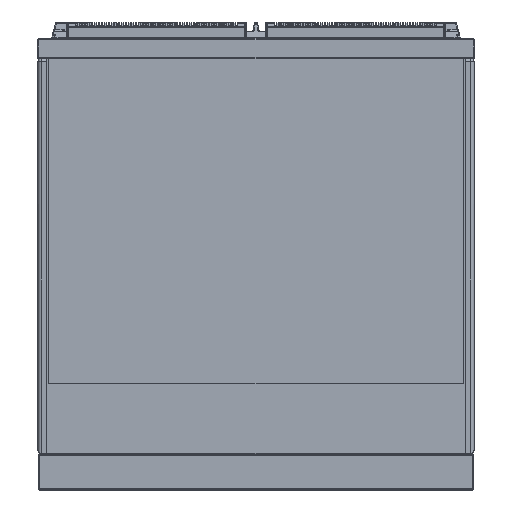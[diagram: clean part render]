
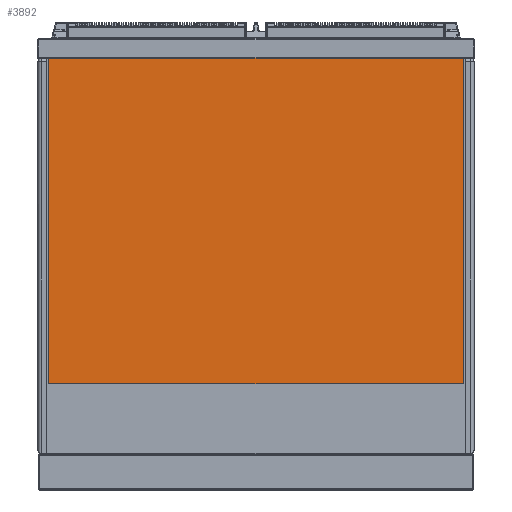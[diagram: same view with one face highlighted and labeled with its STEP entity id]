
A CAD part, top view. The second image highlights one B-rep face of the part: STEP entity #3892.
In plain terms, the highlighted planar face has unit normal (0, 0, 1).
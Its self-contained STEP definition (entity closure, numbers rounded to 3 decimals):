
#1207=DIRECTION('',(1.,0.,0.));
#1208=VECTOR('',#1207,856.);
#1209=CARTESIAN_POINT('',(-428.,890.,299.));
#1210=LINE('',#1209,#1208);
#1211=DIRECTION('',(0.,-1.,0.));
#1212=VECTOR('',#1211,672.);
#1213=CARTESIAN_POINT('',(428.,890.,299.));
#1214=LINE('',#1213,#1212);
#1215=DIRECTION('',(-1.,0.,0.));
#1216=VECTOR('',#1215,856.);
#1217=CARTESIAN_POINT('',(428.,218.,299.));
#1218=LINE('',#1217,#1216);
#1219=DIRECTION('',(0.,1.,0.));
#1220=VECTOR('',#1219,672.);
#1221=CARTESIAN_POINT('',(-428.,218.,299.));
#1222=LINE('',#1221,#1220);
#1512=CARTESIAN_POINT('',(-428.,890.,299.));
#1513=CARTESIAN_POINT('',(428.,890.,299.));
#1514=VERTEX_POINT('',#1512);
#1515=VERTEX_POINT('',#1513);
#1516=CARTESIAN_POINT('',(428.,218.,299.));
#1517=VERTEX_POINT('',#1516);
#1518=CARTESIAN_POINT('',(-428.,218.,299.));
#1519=VERTEX_POINT('',#1518);
#3879=CARTESIAN_POINT('',(-450.,0.,299.));
#3880=DIRECTION('',(0.,0.,-1.));
#3881=DIRECTION('',(-1.,0.,0.));
#3882=AXIS2_PLACEMENT_3D('',#3879,#3880,#3881);
#3883=PLANE('',#3882);
#3884=ORIENTED_EDGE('',*,*,#3724,.T.);
#3886=ORIENTED_EDGE('',*,*,#3885,.T.);
#3888=ORIENTED_EDGE('',*,*,#3887,.T.);
#3889=ORIENTED_EDGE('',*,*,#3871,.T.);
#3890=EDGE_LOOP('',(#3884,#3886,#3888,#3889));
#3891=FACE_OUTER_BOUND('',#3890,.F.);
#3724=EDGE_CURVE('',#1514,#1515,#1210,.T.);
#3871=EDGE_CURVE('',#1519,#1514,#1222,.T.);
#3885=EDGE_CURVE('',#1515,#1517,#1214,.T.);
#3887=EDGE_CURVE('',#1517,#1519,#1218,.T.);
#3892=ADVANCED_FACE('',(#3891),#3883,.F.);
